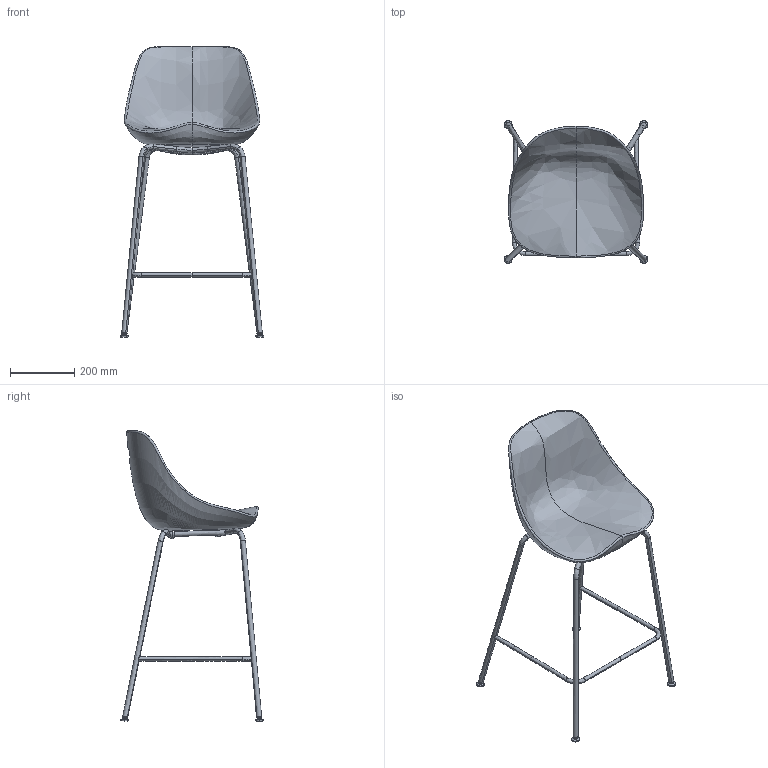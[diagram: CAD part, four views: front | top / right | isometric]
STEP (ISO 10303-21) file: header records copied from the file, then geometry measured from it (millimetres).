
FILE_DESCRIPTION(/* description */ (''),/* implementation_level */ '2;1');
FILE_NAME(/* name */ 'KINOSH~1',/* time_stamp */ '2025-06-30T18:11:00+09:00',/* author */ (''),/* organization */ (''),/* preprocessor_version */ 'ST-DEVELOPER v16.5',/* originating_system */ '',/* authorisation */ '');
FILE_SCHEMA (('AUTOMOTIVE_DESIGN'));
Length unit declared in the file: millimetre
Products named in the file (1): Document
Bounding box: 447.12 x 443.52 x 902.88 mm (x, y, z)
Volume: 9477598 mm3; surface area: 763677.7 mm2
Topology: 2 solids, 6 shells, 360 faces, 856 edges, 508 vertices
Faces by surface type: bspline 240, plane 120
Entity records: 159603 total; most frequent: CARTESIAN_POINT 154700, ORIENTED_EDGE 1688, EDGE_CURVE 848, VERTEX_POINT 508, EDGE_LOOP 396, ADVANCED_FACE 360, FACE_OUTER_BOUND 360, B_SPLINE_CURVE_WITH_KNOTS 285
